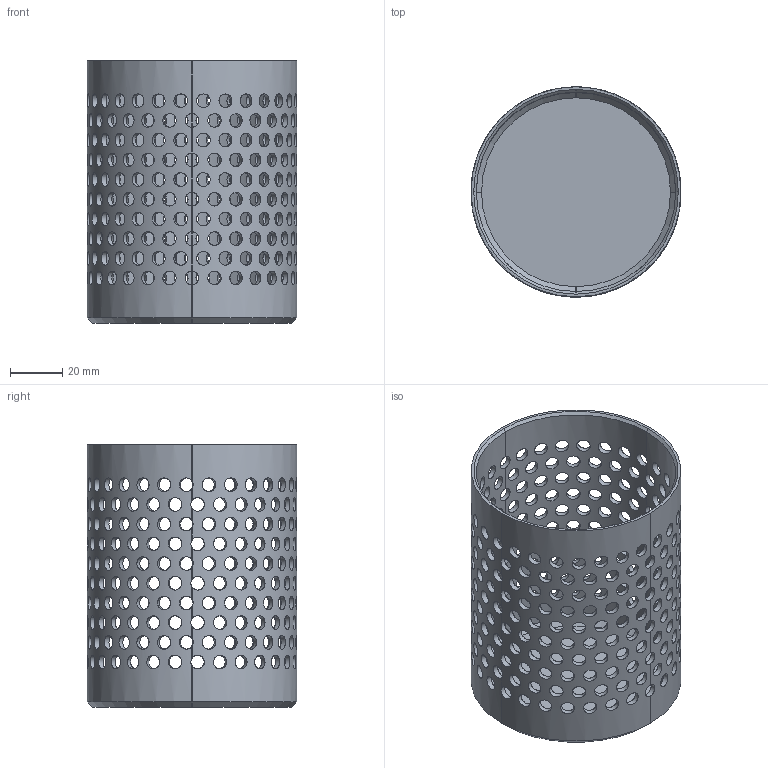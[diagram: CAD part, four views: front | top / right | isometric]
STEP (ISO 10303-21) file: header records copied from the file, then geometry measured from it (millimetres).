
FILE_DESCRIPTION(/* description */ (''),/* implementation_level */ '2;1');
FILE_NAME(/* name */ 'Box 8x8x10 Round.step',/* time_stamp */ '2024-01-01T14:23:53+01:00',/* author */ (''),/* organization */ (''),/* preprocessor_version */ 'ST-DEVELOPER v20',/* originating_system */ 'Autodesk Translation Framework v12.14.0.127',/* authorisation */ '');
FILE_SCHEMA (('AUTOMOTIVE_DESIGN { 1 0 10303 214 3 1 1 }'));
Products named in the file (1): Box Holes
Bounding box: 80 x 80 x 100 mm (x, y, z)
Volume: 45575.4 mm3; surface area: 55019.2 mm2
Topology: 1 solids, 1 shells, 393 faces, 2094 edges, 1644 vertices
Faces by surface type: cylinder 298, plane 83, cone 12
Full cylindrical faces by diameter (mm): 5.2 x290
Entity records: 43988 total; most frequent: CARTESIAN_POINT 28728, ORIENTED_EDGE 4188, EDGE_CURVE 2094, VERTEX_POINT 1644, DIRECTION 1562, B_SPLINE_CURVE_WITH_KNOTS 1468, EDGE_LOOP 914, AXIS2_PLACEMENT_3D 542
